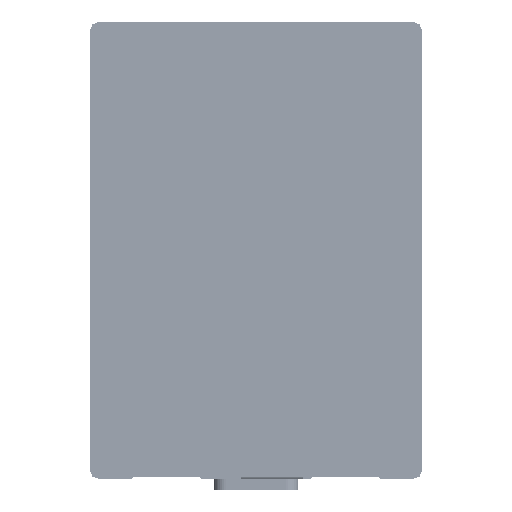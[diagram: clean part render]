
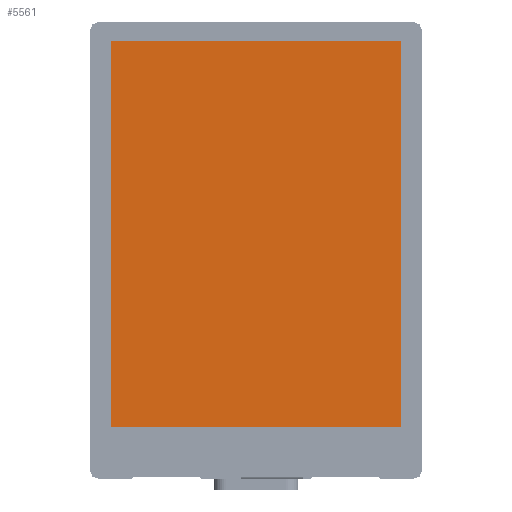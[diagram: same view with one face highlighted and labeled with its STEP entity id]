
A CAD part, top view. The second image highlights one B-rep face of the part: STEP entity #5561.
In plain terms, the highlighted planar face has unit normal (0, 0, 1).
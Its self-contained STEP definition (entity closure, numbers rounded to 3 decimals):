
#5392 = PLANE('',#5393);
#5393 = AXIS2_PLACEMENT_3D('',#5394,#5395,#5396);
#5394 = CARTESIAN_POINT('',(-35.1,22.1,10.9));
#5395 = DIRECTION('',(0.,-1.,0.));
#5396 = DIRECTION('',(1.,0.,0.));
#5420 = PLANE('',#5421);
#5421 = AXIS2_PLACEMENT_3D('',#5422,#5423,#5424);
#5422 = CARTESIAN_POINT('',(-35.1,-18.7,10.9));
#5423 = DIRECTION('',(1.,0.,0.));
#5424 = DIRECTION('',(0.,1.,0.));
#5448 = PLANE('',#5449);
#5449 = AXIS2_PLACEMENT_3D('',#5450,#5451,#5452);
#5450 = CARTESIAN_POINT('',(-4.5,-18.7,10.9));
#5451 = DIRECTION('',(0.,1.,0.));
#5452 = DIRECTION('',(-1.,0.,0.));
#5474 = PLANE('',#5475);
#5475 = AXIS2_PLACEMENT_3D('',#5476,#5477,#5478);
#5476 = CARTESIAN_POINT('',(-4.5,22.1,10.9));
#5477 = DIRECTION('',(-1.,0.,0.));
#5478 = DIRECTION('',(0.,-1.,0.));
#5489 = EDGE_CURVE('',#5490,#5492,#5494,.T.);
#5490 = VERTEX_POINT('',#5491);
#5491 = CARTESIAN_POINT('',(-35.1,22.1,10.95));
#5492 = VERTEX_POINT('',#5493);
#5493 = CARTESIAN_POINT('',(-4.5,22.1,10.95));
#5494 = SURFACE_CURVE('',#5495,(#5499,#5506),.PCURVE_S1.);
#5495 = LINE('',#5496,#5497);
#5496 = CARTESIAN_POINT('',(-35.1,22.1,10.95));
#5497 = VECTOR('',#5498,1.);
#5498 = DIRECTION('',(1.,0.,0.));
#5499 = PCURVE('',#5392,#5500);
#5500 = DEFINITIONAL_REPRESENTATION('',(#5501),#5505);
#5501 = LINE('',#5502,#5503);
#5502 = CARTESIAN_POINT('',(0.,0.05));
#5503 = VECTOR('',#5504,1.);
#5504 = DIRECTION('',(1.,0.));
#5505 = ( GEOMETRIC_REPRESENTATION_CONTEXT(2) 
PARAMETRIC_REPRESENTATION_CONTEXT() REPRESENTATION_CONTEXT('2D SPACE',''
  ) );
#5506 = PCURVE('',#5507,#5512);
#5507 = PLANE('',#5508);
#5508 = AXIS2_PLACEMENT_3D('',#5509,#5510,#5511);
#5509 = CARTESIAN_POINT('',(-19.8,1.7,10.95));
#5510 = DIRECTION('',(0.,0.,1.));
#5511 = DIRECTION('',(1.,0.,0.));
#5512 = DEFINITIONAL_REPRESENTATION('',(#5513),#5517);
#5513 = LINE('',#5514,#5515);
#5514 = CARTESIAN_POINT('',(-15.3,20.4));
#5515 = VECTOR('',#5516,1.);
#5516 = DIRECTION('',(1.,0.));
#5517 = ( GEOMETRIC_REPRESENTATION_CONTEXT(2) 
PARAMETRIC_REPRESENTATION_CONTEXT() REPRESENTATION_CONTEXT('2D SPACE',''
  ) );
#5561 = ADVANCED_FACE('',(#5562),#5507,.T.);
#5562 = FACE_BOUND('',#5563,.F.);
#5563 = EDGE_LOOP('',(#5564,#5565,#5588,#5611));
#5564 = ORIENTED_EDGE('',*,*,#5489,.T.);
#5565 = ORIENTED_EDGE('',*,*,#5566,.F.);
#5566 = EDGE_CURVE('',#5567,#5492,#5569,.T.);
#5567 = VERTEX_POINT('',#5568);
#5568 = CARTESIAN_POINT('',(-4.5,-18.7,10.95));
#5569 = SURFACE_CURVE('',#5570,(#5574,#5581),.PCURVE_S1.);
#5570 = LINE('',#5571,#5572);
#5571 = CARTESIAN_POINT('',(-4.5,-18.7,10.95));
#5572 = VECTOR('',#5573,1.);
#5573 = DIRECTION('',(0.,1.,0.));
#5574 = PCURVE('',#5507,#5575);
#5575 = DEFINITIONAL_REPRESENTATION('',(#5576),#5580);
#5576 = LINE('',#5577,#5578);
#5577 = CARTESIAN_POINT('',(15.3,-20.4));
#5578 = VECTOR('',#5579,1.);
#5579 = DIRECTION('',(0.,1.));
#5580 = ( GEOMETRIC_REPRESENTATION_CONTEXT(2) 
PARAMETRIC_REPRESENTATION_CONTEXT() REPRESENTATION_CONTEXT('2D SPACE',''
  ) );
#5581 = PCURVE('',#5474,#5582);
#5582 = DEFINITIONAL_REPRESENTATION('',(#5583),#5587);
#5583 = LINE('',#5584,#5585);
#5584 = CARTESIAN_POINT('',(40.8,0.05));
#5585 = VECTOR('',#5586,1.);
#5586 = DIRECTION('',(-1.,0.));
#5587 = ( GEOMETRIC_REPRESENTATION_CONTEXT(2) 
PARAMETRIC_REPRESENTATION_CONTEXT() REPRESENTATION_CONTEXT('2D SPACE',''
  ) );
#5588 = ORIENTED_EDGE('',*,*,#5589,.F.);
#5589 = EDGE_CURVE('',#5590,#5567,#5592,.T.);
#5590 = VERTEX_POINT('',#5591);
#5591 = CARTESIAN_POINT('',(-35.1,-18.7,10.95));
#5592 = SURFACE_CURVE('',#5593,(#5597,#5604),.PCURVE_S1.);
#5593 = LINE('',#5594,#5595);
#5594 = CARTESIAN_POINT('',(-35.1,-18.7,10.95));
#5595 = VECTOR('',#5596,1.);
#5596 = DIRECTION('',(1.,0.,0.));
#5597 = PCURVE('',#5507,#5598);
#5598 = DEFINITIONAL_REPRESENTATION('',(#5599),#5603);
#5599 = LINE('',#5600,#5601);
#5600 = CARTESIAN_POINT('',(-15.3,-20.4));
#5601 = VECTOR('',#5602,1.);
#5602 = DIRECTION('',(1.,0.));
#5603 = ( GEOMETRIC_REPRESENTATION_CONTEXT(2) 
PARAMETRIC_REPRESENTATION_CONTEXT() REPRESENTATION_CONTEXT('2D SPACE',''
  ) );
#5604 = PCURVE('',#5448,#5605);
#5605 = DEFINITIONAL_REPRESENTATION('',(#5606),#5610);
#5606 = LINE('',#5607,#5608);
#5607 = CARTESIAN_POINT('',(30.6,0.05));
#5608 = VECTOR('',#5609,1.);
#5609 = DIRECTION('',(-1.,0.));
#5610 = ( GEOMETRIC_REPRESENTATION_CONTEXT(2) 
PARAMETRIC_REPRESENTATION_CONTEXT() REPRESENTATION_CONTEXT('2D SPACE',''
  ) );
#5611 = ORIENTED_EDGE('',*,*,#5612,.T.);
#5612 = EDGE_CURVE('',#5590,#5490,#5613,.T.);
#5613 = SURFACE_CURVE('',#5614,(#5618,#5625),.PCURVE_S1.);
#5614 = LINE('',#5615,#5616);
#5615 = CARTESIAN_POINT('',(-35.1,-18.7,10.95));
#5616 = VECTOR('',#5617,1.);
#5617 = DIRECTION('',(0.,1.,0.));
#5618 = PCURVE('',#5507,#5619);
#5619 = DEFINITIONAL_REPRESENTATION('',(#5620),#5624);
#5620 = LINE('',#5621,#5622);
#5621 = CARTESIAN_POINT('',(-15.3,-20.4));
#5622 = VECTOR('',#5623,1.);
#5623 = DIRECTION('',(0.,1.));
#5624 = ( GEOMETRIC_REPRESENTATION_CONTEXT(2) 
PARAMETRIC_REPRESENTATION_CONTEXT() REPRESENTATION_CONTEXT('2D SPACE',''
  ) );
#5625 = PCURVE('',#5420,#5626);
#5626 = DEFINITIONAL_REPRESENTATION('',(#5627),#5631);
#5627 = LINE('',#5628,#5629);
#5628 = CARTESIAN_POINT('',(0.,0.05));
#5629 = VECTOR('',#5630,1.);
#5630 = DIRECTION('',(1.,0.));
#5631 = ( GEOMETRIC_REPRESENTATION_CONTEXT(2) 
PARAMETRIC_REPRESENTATION_CONTEXT() REPRESENTATION_CONTEXT('2D SPACE',''
  ) );
